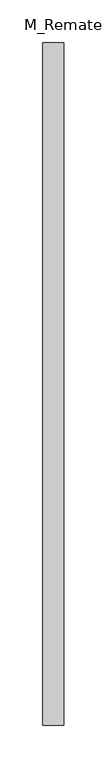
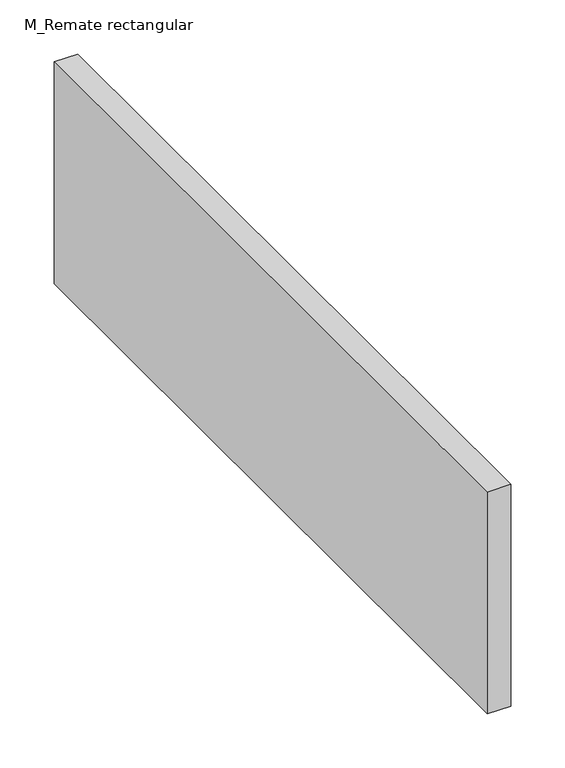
"""IFC4 building model written with IfcOpenShell, lengths in millimetres: duct fitting geometry, M_Remate rectangular : Estándar."""

import ifcopenshell
import ifcopenshell.guid

model = None  # the IFC model being written
_history = None  # IfcOwnerHistory: only IFC2X3 demands one
_inside = {}  # id of a spatial element -> (the spatial element, [elements in it])
_under = {}  # id of a project, library or spatial element -> (it, [spatial elements below it])
_declared = {}  # id of a project -> (the project, [libraries it declares])
_typed = {}  # id of a type object -> (the type object, [elements of that type])
_made_of = {}  # id of a material, layer set ... -> (it, [elements and type objects made of it])


def new_model(schema):
    """Start an empty IFC model of exactly this schema.

    Asked for "IFC4X3", IfcOpenShell would pick the latest addendum, in which some entities
    have other attributes; the version numbers below select the first issue.
    IFC2X3 requires an IfcOwnerHistory on every rooted entity: one is made here for all.
    """
    global model, _history
    if schema == "IFC4X3":
        model = ifcopenshell.file(schema_version=(4, 3, 0, 0))
    else:
        model = ifcopenshell.file(schema=schema)
    _inside.clear()
    _under.clear()
    _declared.clear()
    _typed.clear()
    _made_of.clear()
    _history = None
    if model.schema == "IFC2X3":
        org = make("IfcOrganization", Name="unknown")
        user = make(
            "IfcPersonAndOrganization",
            ThePerson=make("IfcPerson", FamilyName="unknown"),
            TheOrganization=org,
        )
        app = make(
            "IfcApplication",
            ApplicationDeveloper=org,
            Version="unknown",
            ApplicationFullName="unknown",
            ApplicationIdentifier="unknown",
        )
        _history = make(
            "IfcOwnerHistory",
            OwningUser=user,
            OwningApplication=app,
            ChangeAction="ADDED",
            CreationDate=0,
        )
    return model


def make(cls, **values):
    """One entity of the class cls with the attributes given. An attribute that is None is left unset."""
    return model.create_entity(
        cls, **{name: value for name, value in values.items() if value is not None}
    )


def rooted(cls, **values):
    """An entity with a GlobalId (a new one), such as an element, a storey or a relation."""
    return make(cls, GlobalId=ifcopenshell.guid.new(), OwnerHistory=_history, **values)


def si_unit(unit_type, name, prefix=None):
    """IfcSIUnit, for example si_unit("LENGTHUNIT", "METRE", prefix="MILLI")."""
    return make("IfcSIUnit", UnitType=unit_type, Prefix=prefix, Name=name)


def assignment(units):
    """IfcUnitAssignment: the units of a project."""
    return None if units is None else make("IfcUnitAssignment", Units=units)


def point(xyz):
    """IfcCartesianPoint."""
    return None if xyz is None else make("IfcCartesianPoint", Coordinates=xyz)


def direction(xyz):
    """IfcDirection."""
    return None if xyz is None else make("IfcDirection", DirectionRatios=xyz)


def frame(location, z_axis=None, x_axis=None):
    """IfcAxis2Placement3D, a coordinate frame: its origin and axes. An axis left out is left unset."""
    return make(
        "IfcAxis2Placement3D",
        Location=point(location),
        Axis=direction(z_axis),
        RefDirection=direction(x_axis),
    )


def origin():
    """The frame at (0, 0, 0) with its axes left unset."""
    return frame((0.0, 0.0, 0.0))


def place(relative_to, where):
    """IfcLocalPlacement: puts the frame where relative to a parent placement (None: the world)."""
    return make(
        "IfcLocalPlacement", PlacementRelTo=relative_to, RelativePlacement=where
    )


def context(
    kind, dimensions, precision=None, world=None, true_north=None, identifier=None
):
    """IfcGeometricRepresentationContext, for example the 3D "Model" context."""
    return make(
        "IfcGeometricRepresentationContext",
        ContextIdentifier=identifier,
        ContextType=kind,
        CoordinateSpaceDimension=dimensions,
        Precision=precision,
        WorldCoordinateSystem=world,
        TrueNorth=true_north,
    )


def project(units=None, contexts=None):
    """IfcProject with its units and contexts."""
    return rooted(
        "IfcProject",
        Name="project",
        RepresentationContexts=contexts,
        UnitsInContext=assignment(units),
    )


def spatial(cls, under=None, at=None, **own):
    """A site, building, storey or space (cls), placed at a placement, below another one or the project."""
    s = rooted(cls, ObjectPlacement=at, **own)
    if under is not None:
        _under.setdefault(under.id(), (under, []))[1].append(s)
    return s


def polyline(points):
    """IfcPolyline through the points."""
    return make("IfcPolyline", Points=[point(p) for p in points])


def outline(outer, holes=None, kind="AREA"):
    """IfcArbitraryClosedProfileDef: a profile drawn as a closed curve; with holes, ...WithVoids."""
    if holes is None:
        return make("IfcArbitraryClosedProfileDef", ProfileType=kind, OuterCurve=outer)
    return make(
        "IfcArbitraryProfileDefWithVoids",
        ProfileType=kind,
        OuterCurve=outer,
        InnerCurves=holes,
    )


def extrude(swept, where, along, depth):
    """IfcExtrudedAreaSolid: the profile swept, set in the frame where, extruded along a direction by depth."""
    return make(
        "IfcExtrudedAreaSolid",
        SweptArea=swept,
        Position=where,
        ExtrudedDirection=direction(along),
        Depth=depth,
    )


def shape(context_of_items, identifier, shape_type, items):
    """IfcShapeRepresentation: the items that make up one representation, for example the "Body"."""
    return make(
        "IfcShapeRepresentation",
        ContextOfItems=context_of_items,
        RepresentationIdentifier=identifier,
        RepresentationType=shape_type,
        Items=items,
    )


def source(mapping_origin, context_of_items, identifier, shape_type, items):
    """IfcRepresentationMap: a shape defined once, which mapped items show again and again."""
    return make(
        "IfcRepresentationMap",
        MappingOrigin=mapping_origin,
        MappedRepresentation=shape(context_of_items, identifier, shape_type, items),
    )


def transform(
    local_origin,
    x_axis=None,
    y_axis=None,
    z_axis=None,
    scale=None,
    scale2=None,
    scale3=None,
    uniform=True,
):
    """IfcCartesianTransformationOperator3D, or its non-uniform kind. x_axis, y_axis, z_axis: its Axis1, 2, 3."""
    if uniform:
        return make(
            "IfcCartesianTransformationOperator3D",
            Axis1=direction(x_axis),
            Axis2=direction(y_axis),
            LocalOrigin=point(local_origin),
            Scale=scale,
            Axis3=direction(z_axis),
        )
    return make(
        "IfcCartesianTransformationOperator3DnonUniform",
        Axis1=direction(x_axis),
        Axis2=direction(y_axis),
        LocalOrigin=point(local_origin),
        Scale=scale,
        Axis3=direction(z_axis),
        Scale2=scale2,
        Scale3=scale3,
    )


def mapped(mapping_source, mapping_target):
    """IfcMappedItem: shows the shape of a source again, moved by a transform."""
    return make(
        "IfcMappedItem", MappingSource=mapping_source, MappingTarget=mapping_target
    )


def made_of(thing, what):
    """Note that an element or type object is made of a material, layer set ...; save() writes the relation."""
    if what is not None:
        _made_of.setdefault(what.id(), (what, []))[1].append(thing)
    return thing


def element(
    cls,
    number,
    at=None,
    inside=None,
    cuts=None,
    type_object=None,
    material=None,
    context=None,
    identifier="Body",
    shape_type=None,
    held_by="IfcProductDefinitionShape",
    body=None,
    shapes=None,
    **own,
):
    """One element of the class cls, such as IfcWall. Its Tag is "e" and its number.

    at: its placement. inside: the storey or other place that contains it. cuts: it is an
    opening in that element (IfcRelVoidsElement). A single representation is given by context,
    identifier, shape_type and body (its items); several are given by shapes. held_by: the class
    of the entity that holds the representations. save() writes the other relations.
    """
    e = rooted(cls, Tag="e%d" % number, ObjectPlacement=at, **own)
    if body is not None:
        shapes = [shape(context, identifier, shape_type, body)]
    if shapes is not None:
        e.Representation = make(held_by, Representations=shapes)
    if inside is not None:
        _inside.setdefault(inside.id(), (inside, []))[1].append(e)
    if cuts is not None:
        rooted(
            "IfcRelVoidsElement", RelatingBuildingElement=cuts, RelatedOpeningElement=e
        )
    if type_object is not None:
        _typed.setdefault(type_object.id(), (type_object, []))[1].append(e)
    return made_of(e, material)


def aggregate(whole, parts):
    """IfcRelAggregates: a whole, such as a stair, and the parts it consists of."""
    return rooted("IfcRelAggregates", RelatingObject=whole, RelatedObjects=parts)


def save(model, path):
    """Write the relations noted so far, then the file.

    IfcRelAggregates (storeys below a building ...), IfcRelContainedInSpatialStructure (elements
    in a storey), IfcRelDefinesByType, IfcRelAssociatesMaterial and IfcRelDeclares: one each for
    every whole, place, type object, material and project.
    """
    for whole, parts in _under.values():
        aggregate(whole, parts)
    for where, things in _inside.values():
        rooted(
            "IfcRelContainedInSpatialStructure",
            RelatedElements=things,
            RelatingStructure=where,
        )
    for kind, things in _typed.values():
        rooted("IfcRelDefinesByType", RelatedObjects=things, RelatingType=kind)
    for what, things in _made_of.values():
        rooted("IfcRelAssociatesMaterial", RelatedObjects=things, RelatingMaterial=what)
    for by, libraries in _declared.values():
        rooted("IfcRelDeclares", RelatingContext=by, RelatedDefinitions=libraries)
    model.write(path)


def m_remate_rectangular_b45a0224(model_context):
    return source(origin(), model_context, "Body", "SweptSolid", [
        extrude(outline(polyline([(0.0, -400.0), (0.0, 400.0), (25.0, 400.0), (25.0, -400.0), (0.0, -400.0)])), frame((0.0, 0.0, -125.0), z_axis=(0.0, 0.0, 1.0), x_axis=(1.0, 0.0, 0.0)), (0.0, 0.0, 1.0), 250.0),
    ])


if __name__ == "__main__":
    model = new_model("IFC4")
    model_context = context("Model", 3, world=origin())
    ifc_project = project(units=[si_unit("LENGTHUNIT", "METRE", prefix="MILLI")], contexts=[model_context])
    site = spatial("IfcSite", under=ifc_project)
    building = spatial("IfcBuilding", under=site)
    placement = place(None, origin())
    m_remate_rectangular_shape = m_remate_rectangular_b45a0224(model_context)
    element("IfcDuctFitting", 1, ObjectType="M_Remate rectangular : Estándar", at=placement, inside=building, context=model_context, shape_type="MappedRepresentation", body=[
        mapped(m_remate_rectangular_shape, transform((0.0, 0.0, 0.0), x_axis=(1.0, 0.0, 0.0), y_axis=(0.0, 1.0, 0.0), z_axis=(0.0, 0.0, 1.0))),
    ])
    save(model, "model.ifc")
